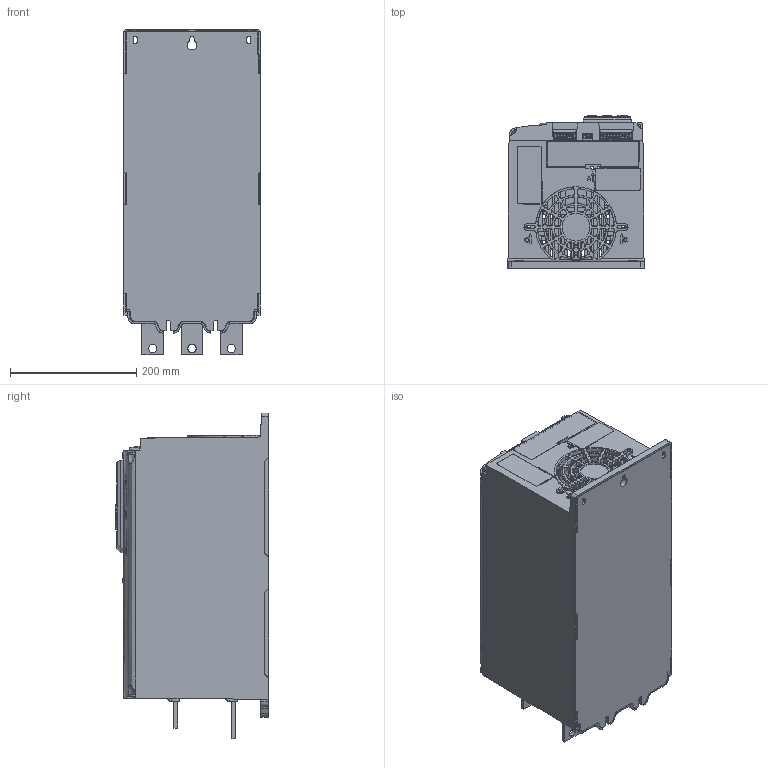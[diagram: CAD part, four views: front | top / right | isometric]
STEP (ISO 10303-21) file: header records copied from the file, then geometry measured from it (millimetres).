
FILE_DESCRIPTION (( 'STEP AP214' ), '1' );
FILE_NAME ('F4-A 3-Phase7.STEP', '2015-09-24T21:19:16', ( '' ), ( '' ), 'SwSTEP 2.0', 'SolidWorks 2014', '' );
FILE_SCHEMA (( 'AUTOMOTIVE_DESIGN' ));
Length unit declared in the file: millimetre
Products named in the file (23): 999-17234-00; 300-07407-00_1_1_1; Electrical schematic label small - 635-04681-00; Name plate sticker small - 635-04681-00; cc1_1_1; 633-15475-00_1_1_1; 633-16068-00; fff_1; en2_1; 991-17408-00_CT Leads Removed (10); q_1_1; 621-15780-00; dd1; 621-15779-00; 991-17216-00; ss1; 633-17037-00; le22_1_1_1; 300-07410-00_1_1_1_1; 300-07409-00_1_1_1_1; F4-A 3-Phase7; 999-17223-00; 635-16299-00
Assembly tree (26 placements, depth 4):
  F4-A 3-Phase7
    991-17408-00_CT Leads Removed (10)
      le22_1_1_1
      621-15779-00  x3
        ss1
      621-15780-00  x3
        dd1
      q_1_1
    999-17234-00
      633-16068-00
        en2_1
        fff_1
      633-15475-00_1_1_1
      cc1_1_1
      Name plate sticker small - 635-04681-00
      Electrical schematic label small - 635-04681-00
    999-17223-00
      635-16299-00
    991-17216-00
      300-07409-00_1_1_1_1
      300-07410-00_1_1_1_1
      633-17037-00
    300-07407-00_1_1_1
Bounding box: 216 x 243.5 x 516.41 mm (x, y, z)
Volume: 2631022 mm3; surface area: 1241732.2 mm2
Topology: 19 solids, 24 shells, 4298 faces, 12016 edges, 7897 vertices
Faces by surface type: plane 2917, bspline 714, cylinder 356, cone 286, torus 23, sphere 2
Entity records: 232148 total; most frequent: CARTESIAN_POINT 83606, ORIENTED_EDGE 23760, DIRECTION 16453, EDGE_CURVE 11880, LINE 8189, VECTOR 8189, VERTEX_POINT 7817, EDGE_LOOP 4781
